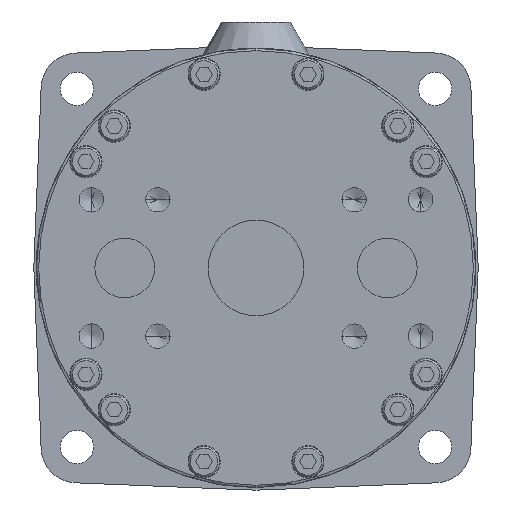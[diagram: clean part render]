
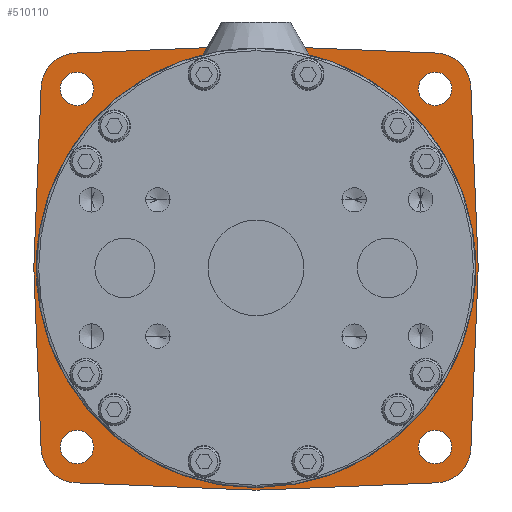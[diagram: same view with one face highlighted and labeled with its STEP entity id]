
A CAD part, left-side view. The second image highlights one B-rep face of the part: STEP entity #510110.
In plain terms, the highlighted planar face has unit normal (-1, 0, 0) as drawn and (1, 0, 0) by its records, which use the part's own axes.
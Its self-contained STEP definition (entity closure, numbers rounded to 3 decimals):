
#508080=CARTESIAN_POINT('',(-179.,84.5,0.))
;
#508090=DIRECTION('',(-1.,0.,0.));
#508100=DIRECTION('',(0.,1.,0.));
#508110=AXIS2_PLACEMENT_3D('',#508080,#508090,#508100);
#508120=PLANE('',#508110);
#508130=CARTESIAN_POINT('',(-179.,89.987,-75.613));
#508140=DIRECTION('',(0.,0.041,0.999));
#508150=VECTOR('',#508140,1.);
#508160=LINE('',#508130,#508150);
#508170=CARTESIAN_POINT('',(-179.,89.987,-75.613));
#508180=VERTEX_POINT('',#508170);
#508190=CARTESIAN_POINT('',(-179.,92.922,-3.798));
#508200=VERTEX_POINT('',#508190);
#508210=EDGE_CURVE('',#508180,#508200,#508160,.T.);
#508220=ORIENTED_EDGE('',*,*,#508210,.T.);
#508230=CARTESIAN_POINT('',(-179.,75.,-75.));
#508240=DIRECTION('',(1.,0.,0.));
#508250=DIRECTION('',(0.,0.,-1.));
#508260=AXIS2_PLACEMENT_3D('',#508230,#508240,#508250);
#508270=CIRCLE('',#508260,15.);
#508280=CARTESIAN_POINT('',(-179.,75.613,-89.987));
#508290=VERTEX_POINT('',#508280);
#508300=EDGE_CURVE('',#508290,#508180,#508270,.T.);
#508310=ORIENTED_EDGE('',*,*,#508300,.T.);
#508320=CARTESIAN_POINT('',(-179.,3.798,-92.922));
#508330=DIRECTION('',(0.,0.999,0.041));
#508340=VECTOR('',#508330,1.);
#508350=LINE('',#508320,#508340);
#508360=CARTESIAN_POINT('',(-179.,3.798,-92.922));
#508370=VERTEX_POINT('',#508360);
#508380=EDGE_CURVE('',#508370,#508290,#508350,.T.);
#508390=ORIENTED_EDGE('',*,*,#508380,.T.);
#508400=CARTESIAN_POINT('',(-179.,0.,
0.));
#508410=DIRECTION('',(1.,0.,0.));
#508420=DIRECTION('',(0.,-1.,0.));
#508430=AXIS2_PLACEMENT_3D('',#508400,#508410,#508420);
#508440=CIRCLE('',#508430,93.);
#508450=CARTESIAN_POINT('',(-179.,-3.798,-92.922));
#508460=VERTEX_POINT('',#508450);
#508470=EDGE_CURVE('',#508460,#508370,#508440,.T.);
#508480=ORIENTED_EDGE('',*,*,#508470,.T.);
#508490=CARTESIAN_POINT('',(-179.,-75.613,-89.987));
#508500=DIRECTION('',(0.,0.999,-0.041));
#508510=VECTOR('',#508500,1.);
#508520=LINE('',#508490,#508510);
#508530=CARTESIAN_POINT('',(-179.,-75.613,-89.987));
#508540=VERTEX_POINT('',#508530);
#508550=EDGE_CURVE('',#508540,#508460,#508520,.T.);
#508560=ORIENTED_EDGE('',*,*,#508550,.T.);
#508570=CARTESIAN_POINT('',(-179.,-75.,-75.));
#508580=DIRECTION('',(1.,0.,0.));
#508590=DIRECTION('',(0.,0.,-1.));
#508600=AXIS2_PLACEMENT_3D('',#508570,#508580,#508590);
#508610=CIRCLE('',#508600,15.);
#508620=CARTESIAN_POINT('',(-179.,-89.987,-75.613));
#508630=VERTEX_POINT('',#508620);
#508640=EDGE_CURVE('',#508630,#508540,#508610,.T.);
#508650=ORIENTED_EDGE('',*,*,#508640,.T.);
#508660=CARTESIAN_POINT('',(-179.,-92.922,-3.798));
#508670=DIRECTION('',(0.,0.041,-0.999));
#508680=VECTOR('',#508670,1.);
#508690=LINE('',#508660,#508680);
#508700=CARTESIAN_POINT('',(-179.,-92.922,-3.798));
#508710=VERTEX_POINT('',#508700);
#508720=EDGE_CURVE('',#508710,#508630,#508690,.T.);
#508730=ORIENTED_EDGE('',*,*,#508720,.T.);
#508740=CARTESIAN_POINT('',(-179.,-92.922,3.798));
#508750=VERTEX_POINT('',#508740);
#508760=EDGE_CURVE('',#508750,#508710,#508440,.T.);
#508770=ORIENTED_EDGE('',*,*,#508760,.T.);
#508780=CARTESIAN_POINT('',(-179.,-92.922,3.798));
#508790=DIRECTION('',(0.,0.041,0.999));
#508800=VECTOR('',#508790,1.);
#508810=LINE('',#508780,#508800);
#508820=CARTESIAN_POINT('',(-179.,-89.987,75.613));
#508830=VERTEX_POINT('',#508820);
#508840=EDGE_CURVE('',#508750,#508830,#508810,.T.);
#508850=ORIENTED_EDGE('',*,*,#508840,.F.);
#508860=CARTESIAN_POINT('',(-179.,-75.,75.));
#508870=DIRECTION('',(-1.,0.,0.));
#508880=DIRECTION('',(0.,0.,1.));
#508890=AXIS2_PLACEMENT_3D('',#508860,#508870,#508880);
#508900=CIRCLE('',#508890,15.);
#508910=CARTESIAN_POINT('',(-179.,-75.613,89.987));
#508920=VERTEX_POINT('',#508910);
#508930=EDGE_CURVE('',#508830,#508920,#508900,.T.);
#508940=ORIENTED_EDGE('',*,*,#508930,.F.);
#508950=CARTESIAN_POINT('',(-179.,-75.613,89.987));
#508960=DIRECTION('',(0.,0.999,0.041));
#508970=VECTOR('',#508960,1.);
#508980=LINE('',#508950,#508970);
#508990=CARTESIAN_POINT('',(-179.,-3.798,92.922));
#509000=VERTEX_POINT('',#508990);
#509010=EDGE_CURVE('',#508920,#509000,#508980,.T.);
#509020=ORIENTED_EDGE('',*,*,#509010,.F.);
#509030=CARTESIAN_POINT('',(-179.,3.798,92.922));
#509040=VERTEX_POINT('',#509030);
#509050=EDGE_CURVE('',#509040,#509000,#508440,.T.);
#509060=ORIENTED_EDGE('',*,*,#509050,.T.);
#509070=CARTESIAN_POINT('',(-179.,3.798,92.922));
#509080=DIRECTION('',(0.,0.999,-0.041));
#509090=VECTOR('',#509080,1.);
#509100=LINE('',#509070,#509090);
#509110=CARTESIAN_POINT('',(-179.,75.613,89.987));
#509120=VERTEX_POINT('',#509110);
#509130=EDGE_CURVE('',#509040,#509120,#509100,.T.);
#509140=ORIENTED_EDGE('',*,*,#509130,.F.);
#509150=CARTESIAN_POINT('',(-179.,75.,75.));
#509160=DIRECTION('',(-1.,0.,0.));
#509170=DIRECTION('',(0.,0.,1.));
#509180=AXIS2_PLACEMENT_3D('',#509150,#509160,#509170);
#509190=CIRCLE('',#509180,15.);
#509200=CARTESIAN_POINT('',(-179.,89.987,75.613));
#509210=VERTEX_POINT('',#509200);
#509220=EDGE_CURVE('',#509120,#509210,#509190,.T.);
#509230=ORIENTED_EDGE('',*,*,#509220,.F.);
#509240=CARTESIAN_POINT('',(-179.,89.987,75.613));
#509250=DIRECTION('',(0.,0.041,-0.999));
#509260=VECTOR('',#509250,1.);
#509270=LINE('',#509240,#509260);
#509280=CARTESIAN_POINT('',(-179.,92.922,3.798));
#509290=VERTEX_POINT('',#509280);
#509300=EDGE_CURVE('',#509210,#509290,#509270,.T.);
#509310=ORIENTED_EDGE('',*,*,#509300,.F.);
#509320=EDGE_CURVE('',#508200,#509290,#508440,.T.);
#509330=ORIENTED_EDGE('',*,*,#509320,.T.);
#509340=EDGE_LOOP('',(#509330,#509310,#509230,#509140,#509060,#509020,
#508940,#508850,#508770,#508730,#508650,#508560,#508480,#508390,#508310,
#508220));
#509350=FACE_OUTER_BOUND('',#509340,.T.);
#509360=CARTESIAN_POINT('',(-179.,0.,
0.));
#509370=DIRECTION('',(1.,0.,0.));
#509380=DIRECTION('',(0.,-1.,0.));
#509390=AXIS2_PLACEMENT_3D('',#509360,#509370,#509380);
#509400=CIRCLE('',#509390,91.);
#509410=CARTESIAN_POINT('',(-179.,-91.,0.));
#509420=VERTEX_POINT('',#509410);
#509430=CARTESIAN_POINT('',(-179.,91.,0.));
#509440=VERTEX_POINT('',#509430);
#509450=EDGE_CURVE('',#509420,#509440,#509400,.T.);
#509460=ORIENTED_EDGE('',*,*,#509450,.F.);
#509470=EDGE_CURVE('',#509440,#509420,#509400,.T.);
#509480=ORIENTED_EDGE('',*,*,#509470,.F.);
#509490=EDGE_LOOP('',(#509480,#509460));
#509500=FACE_BOUND('',#509490,.T.);
#509510=CARTESIAN_POINT('',(-179.,75.,75.));
#509520=DIRECTION('',(-1.,0.,0.));
#509530=DIRECTION('',(0.,1.,0.));
#509540=AXIS2_PLACEMENT_3D('',#509510,#509520,#509530);
#509550=CIRCLE('',#509540,7.);
#509560=CARTESIAN_POINT('',(-179.,82.,75.));
#509570=VERTEX_POINT('',#509560);
#509580=CARTESIAN_POINT('',(-179.,68.,75.));
#509590=VERTEX_POINT('',#509580);
#509600=EDGE_CURVE('',#509570,#509590,#509550,.T.);
#509610=ORIENTED_EDGE('',*,*,#509600,.T.);
#509620=EDGE_CURVE('',#509590,#509570,#509550,.T.);
#509630=ORIENTED_EDGE('',*,*,#509620,.T.);
#509640=EDGE_LOOP('',(#509630,#509610));
#509650=FACE_BOUND('',#509640,.T.);
#509660=CARTESIAN_POINT('',(-179.,-75.,75.));
#509670=DIRECTION('',(-1.,0.,0.));
#509680=DIRECTION('',(0.,0.,1.));
#509690=AXIS2_PLACEMENT_3D('',#509660,#509670,#509680);
#509700=CIRCLE('',#509690,7.);
#509710=CARTESIAN_POINT('',(-179.,-75.,82.));
#509720=VERTEX_POINT('',#509710);
#509730=CARTESIAN_POINT('',(-179.,-75.,68.));
#509740=VERTEX_POINT('',#509730);
#509750=EDGE_CURVE('',#509720,#509740,#509700,.T.);
#509760=ORIENTED_EDGE('',*,*,#509750,.T.);
#509770=EDGE_CURVE('',#509740,#509720,#509700,.T.);
#509780=ORIENTED_EDGE('',*,*,#509770,.T.);
#509790=EDGE_LOOP('',(#509780,#509760));
#509800=FACE_BOUND('',#509790,.T.);
#509810=CARTESIAN_POINT('',(-179.,-75.,-75.));
#509820=DIRECTION('',(-1.,0.,0.));
#509830=DIRECTION('',(0.,-1.,0.));
#509840=AXIS2_PLACEMENT_3D('',#509810,#509820,#509830);
#509850=CIRCLE('',#509840,7.);
#509860=CARTESIAN_POINT('',(-179.,-82.,-75.));
#509870=VERTEX_POINT('',#509860);
#509880=CARTESIAN_POINT('',(-179.,-68.,-75.));
#509890=VERTEX_POINT('',#509880);
#509900=EDGE_CURVE('',#509870,#509890,#509850,.T.);
#509910=ORIENTED_EDGE('',*,*,#509900,.T.);
#509920=EDGE_CURVE('',#509890,#509870,#509850,.T.);
#509930=ORIENTED_EDGE('',*,*,#509920,.T.);
#509940=EDGE_LOOP('',(#509930,#509910));
#509950=FACE_BOUND('',#509940,.T.);
#509960=CARTESIAN_POINT('',(-179.,75.,-75.));
#509970=DIRECTION('',(-1.,0.,0.));
#509980=DIRECTION('',(0.,0.,-1.));
#509990=AXIS2_PLACEMENT_3D('',#509960,#509970,#509980);
#510000=CIRCLE('',#509990,7.);
#510010=CARTESIAN_POINT('',(-179.,75.,-82.));
#510020=VERTEX_POINT('',#510010);
#510030=CARTESIAN_POINT('',(-179.,75.,-68.));
#510040=VERTEX_POINT('',#510030);
#510050=EDGE_CURVE('',#510020,#510040,#510000,.T.);
#510060=ORIENTED_EDGE('',*,*,#510050,.T.);
#510070=EDGE_CURVE('',#510040,#510020,#510000,.T.);
#510080=ORIENTED_EDGE('',*,*,#510070,.T.);
#510090=EDGE_LOOP('',(#510080,#510060));
#510100=FACE_BOUND('',#510090,.T.);
#510110=ADVANCED_FACE('',(#509350,#509500,#509650,#509800,#509950,
#510100),#508120,.F.);
